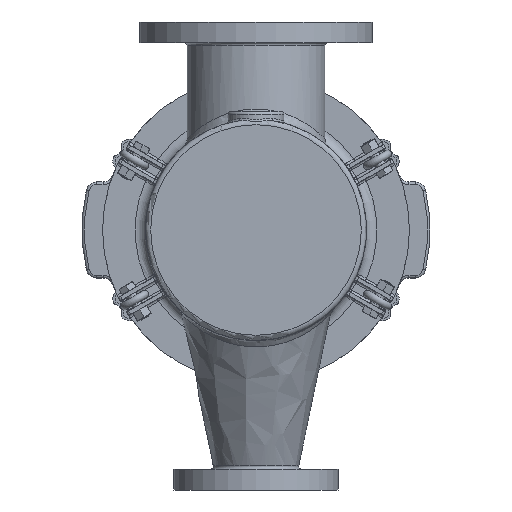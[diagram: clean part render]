
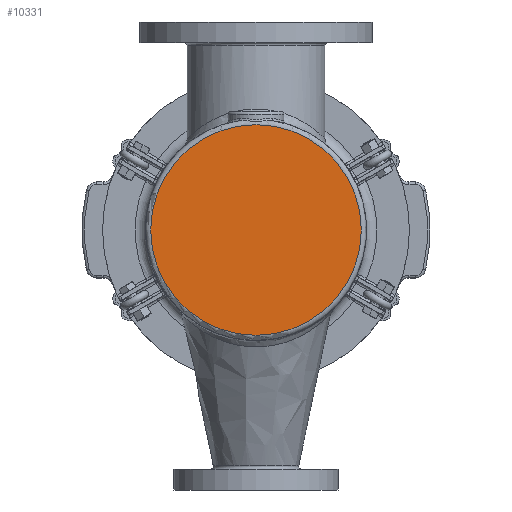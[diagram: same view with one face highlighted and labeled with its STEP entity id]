
A CAD part, front view. The second image highlights one B-rep face of the part: STEP entity #10331.
In plain terms, the highlighted planar face has unit normal (0, -1, 0).
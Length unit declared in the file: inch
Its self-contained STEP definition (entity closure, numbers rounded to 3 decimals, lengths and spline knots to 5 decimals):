
#1328=PLANE('',#11032);
#2204=FACE_OUTER_BOUND('',#2876,.T.);
#2876=EDGE_LOOP('',(#6872));
#3715=CIRCLE('',#11024,5.0625);
#4424=VERTEX_POINT('',#15954);
#5368=EDGE_CURVE('',#4424,#4424,#3715,.T.);
#6872=ORIENTED_EDGE('',*,*,#5368,.F.);
#10331=ADVANCED_FACE('',(#2204),#1328,.F.);
#11024=AXIS2_PLACEMENT_3D('',#15955,#12436,#12437);
#11032=AXIS2_PLACEMENT_3D('',#15966,#12452,#12453);
#12436=DIRECTION('center_axis',(0.,1.,0.));
#12437=DIRECTION('ref_axis',(1.,0.,0.));
#12452=DIRECTION('center_axis',(0.,1.,0.));
#12453=DIRECTION('ref_axis',(0.,0.,1.));
#15954=CARTESIAN_POINT('',(-5.0625,0.,0.));
#15955=CARTESIAN_POINT('Origin',(0.,0.,0.));
#15966=CARTESIAN_POINT('Origin',(0.,0.,0.));
